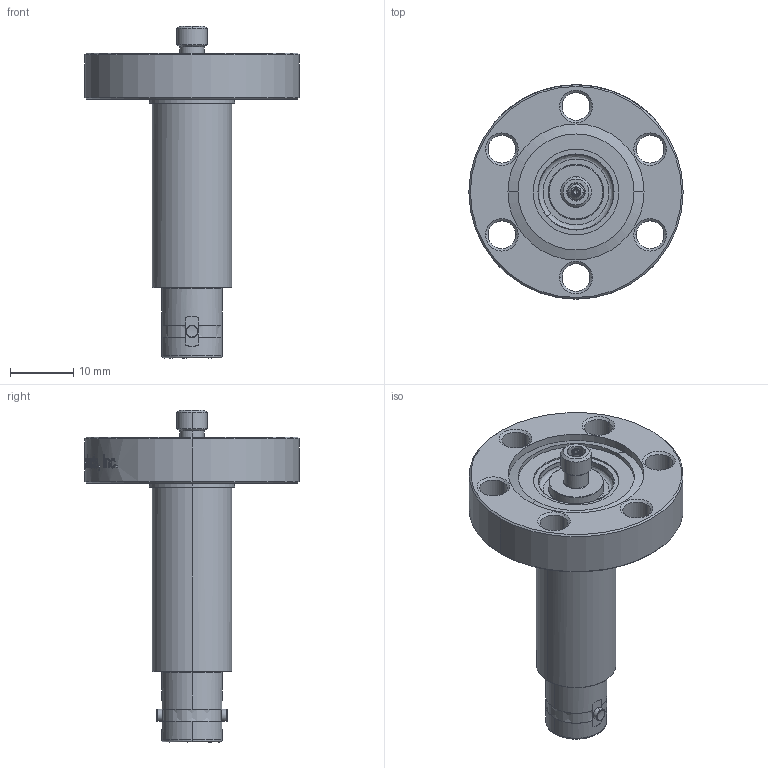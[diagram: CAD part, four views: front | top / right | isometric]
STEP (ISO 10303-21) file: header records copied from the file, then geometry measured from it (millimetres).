
FILE_DESCRIPTION (( 'STEP AP203' ), '1' );
FILE_NAME ('113125.stp', '2018-04-17T20:39:41', ( '' ), ( '' ), 'SwSTEP 2.0', 'SolidWorks 2012', '' );
FILE_SCHEMA (( 'CONFIG_CONTROL_DESIGN' ));
Length unit declared in the file: centimetre
Products named in the file (1): 113125
Bounding box: 33.78 x 33.78 x 52.32 mm (x, y, z)
Volume: 7907.8 mm3; surface area: 6924 mm2
Topology: 1 solids, 1 shells, 544 faces, 1411 edges, 912 vertices
Faces by surface type: bspline 179, plane 168, cylinder 115, cone 82
Entity records: 46557 total; most frequent: CARTESIAN_POINT 34408, ORIENTED_EDGE 2814, DIRECTION 2033, EDGE_CURVE 1407, VERTEX_POINT 912, AXIS2_PLACEMENT_3D 760, EDGE_LOOP 603, FACE_OUTER_BOUND 544
